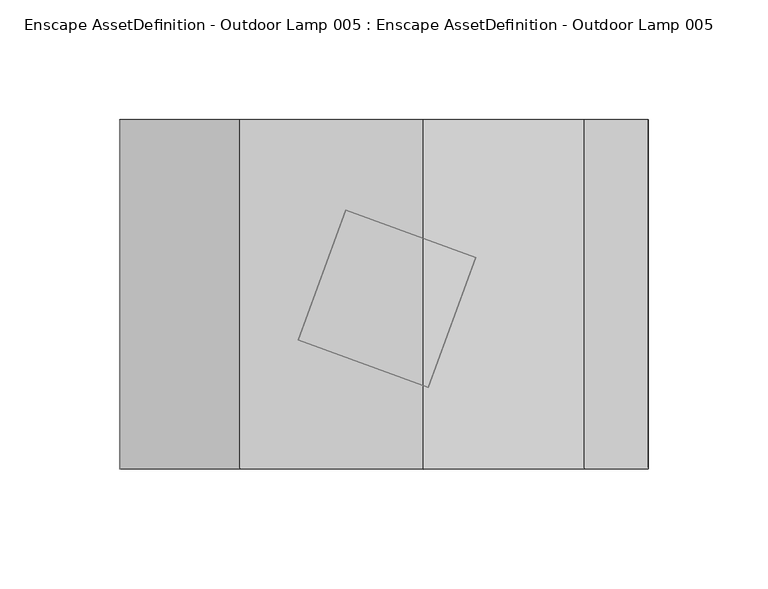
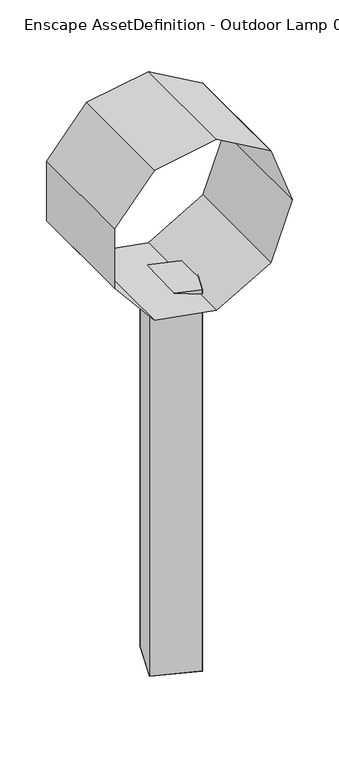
"""IFC4 building model written with IfcOpenShell, lengths in millimetres: geographic element geometry, Enscape AssetDefinition - Outdoor Lamp 005 : Enscape AssetDefinition - Outdoor Lamp 005."""

from ifc_helpers import new_model, si_unit, origin, place, context, project, spatial, triangles, source, transform, mapped, element, save


def enscape_assetdefinition_outdoor_lamp_005_enscape_cb5cc8c5(model_context):
    return source(origin(), model_context, "Body", "Tessellation", [
        triangles([(113.7261796, 72.975056, 606.2882472), (87.1193099, 72.9750379, 679.3899988), (113.7261796, -72.975056, 606.2882472), (87.1192645, -72.975047, 533.1863866), (19.7483381, 72.9750333, 718.2866798), (87.1193099, -72.9750606, 679.3899988), (-56.8631034, 72.9750333, 704.777984), (-56.8631034, -72.9750697, 704.777984), (19.7483381, -72.9750697, 718.2866798), (-106.8676593, 72.975047, 645.1849646), (-106.8676684, 72.9750606, 567.3916389), (-106.8676593, -72.9750606, 645.1849646), (-106.8676684, -72.975047, 567.3915662), (-56.8631307, 72.9750697, 507.7985104), (19.7482881, 72.9750697, 494.2898146), (-56.8631307, -72.9750333, 507.7985104), (87.1192645, 72.9750697, 533.1863866), (19.7482881, -72.9750333, 494.2897782), (-12.5299027, 35.2842244, 498.2749638), (-12.540844, 35.2768189, 0.0), (21.9569674, -38.7040056, 0.0), (-32.2720718, -18.9675003, 497.9170641), (-32.2823477, -18.9624985, 0.0), (41.6881985, 15.5402976, 500.0361208), (21.9460124, -38.7114271, 499.6782938), (41.6984677, 15.535314, 0.0)], [[21, 25, 22], [25, 21, 26], [25, 26, 24], [20, 24, 26], [25, 24, 19], [20, 19, 24], [22, 25, 19], [26, 21, 23], [23, 22, 19], [20, 26, 23], [21, 22, 23], [23, 19, 20], [17, 4, 18], [15, 18, 16], [15, 17, 18], [14, 16, 13], [14, 15, 16], [11, 13, 12], [11, 14, 13], [10, 12, 8], [10, 11, 12], [7, 8, 9], [7, 10, 8], [5, 9, 6], [5, 7, 9], [2, 6, 3], [2, 5, 6], [1, 3, 4], [17, 1, 4], [1, 2, 3]], closed=False),
    ])


if __name__ == "__main__":
    model = new_model("IFC4")
    model_context = context("Model", 3, world=origin())
    ifc_project = project(units=[si_unit("LENGTHUNIT", "METRE", prefix="MILLI")], contexts=[model_context])
    site = spatial("IfcSite", under=ifc_project)
    building = spatial("IfcBuilding", under=site)
    placement = place(None, origin())
    enscape_assetdefinition_outdoor_lamp_005_enscape_shape = enscape_assetdefinition_outdoor_lamp_005_enscape_cb5cc8c5(model_context)
    element("IfcGeographicElement", 1, ObjectType="Enscape AssetDefinition - Outdoor Lamp 005 : Enscape AssetDefinition - Outdoor Lamp 005", at=placement, inside=building, context=model_context, shape_type="MappedRepresentation", body=[
        mapped(enscape_assetdefinition_outdoor_lamp_005_enscape_shape, transform((0.0, 0.0, 0.0), x_axis=(1.0, 0.0, 0.0), y_axis=(0.0, 1.0, 0.0), z_axis=(0.0, 0.0, 1.0))),
    ])
    save(model, "model.ifc")
